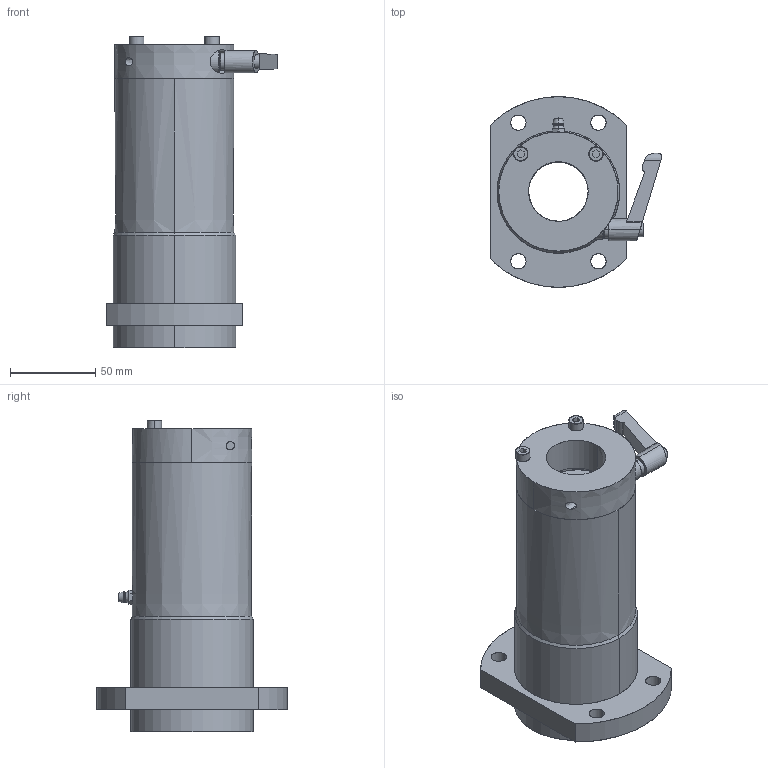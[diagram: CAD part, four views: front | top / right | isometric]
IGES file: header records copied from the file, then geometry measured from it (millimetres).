
Start section: SolidWorks IGES file using analytic representation for surfaces
Global section: file name: C:\Users\yamad\Desktop\IGES\LFWB35-C.IGS; native system: SolidWorks 2019; preprocessor: SolidWorks 2019; author: yamad; date: 230626.172039; units: millimetre
Bounding box: 100.7 x 112 x 183 mm (x, y, z)
Surface area: 98173.3 mm2 (no closed solid volume)
Topology: 0 solids, 0 shells, 236 faces, 5943 edges, 5941 vertices
Faces by surface type: bspline 125, revolution 111
